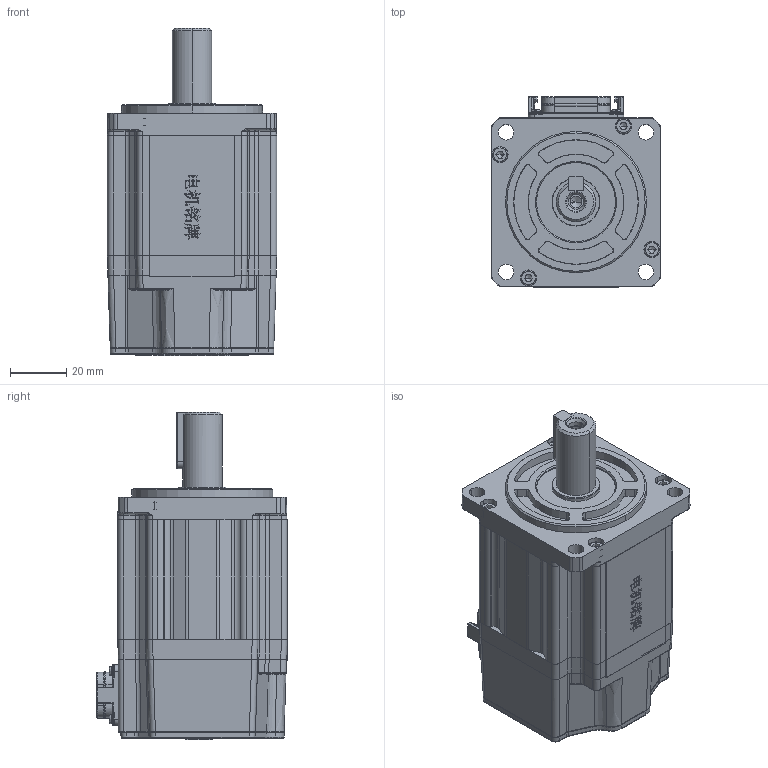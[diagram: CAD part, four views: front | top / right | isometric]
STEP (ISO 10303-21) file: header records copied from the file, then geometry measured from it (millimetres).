
FILE_DESCRIPTION (( 'STEP AP203' ), '1' );
FILE_NAME ('MC20-060-3L30-N201-0¡õCK-NNNN.STEP', '2026-04-19T15:11:33', ( '' ), ( '' ), 'SwSTEP 2.0', 'SolidWorks 2014', '' );
FILE_SCHEMA (( 'CONFIG_CONTROL_DESIGN' ));
Length unit declared in the file: millimetre
Products named in the file (1): MC20-060-3L30-N201-0¡õCK-NNNN
Bounding box: 60 x 67.55 x 116 mm (x, y, z)
Volume: 282663 mm3; surface area: 66927.6 mm2
Topology: 11 solids, 15 shells, 2189 faces, 5829 edges, 3747 vertices
Faces by surface type: plane 990, cylinder 564, bspline 428, cone 171, torus 36
Entity records: 89337 total; most frequent: CARTESIAN_POINT 38737, ORIENTED_EDGE 11532, DIRECTION 8845, EDGE_CURVE 5766, VERTEX_POINT 3747, VECTOR 3257, LINE 3257, AXIS2_PLACEMENT_3D 2794
